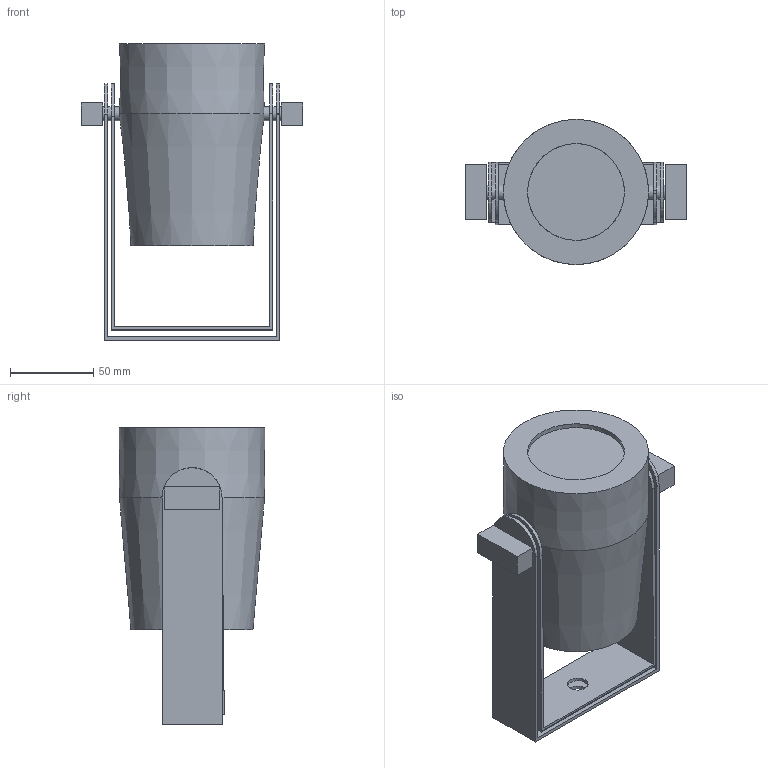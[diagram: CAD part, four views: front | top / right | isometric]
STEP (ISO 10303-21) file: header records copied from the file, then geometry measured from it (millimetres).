
FILE_DESCRIPTION(/* description */ (''),/* implementation_level */ '2;1');
FILE_NAME(/* name */ 'COLORDash Accent 5XIP_0.step',/* time_stamp */ '2026-07-14T14:15:48-04:00',/* author */ (''),/* organization */ (''),/* preprocessor_version */ 'ST-DEVELOPER v20.1',/* originating_system */ 'Autodesk Translation Framework v15.8.0.0',/* authorisation */ '');
FILE_SCHEMA (('AUTOMOTIVE_DESIGN { 1 0 10303 214 3 1 1 }'));
Length unit declared in the file: millimetre
Products named in the file (6): CHRUVET-00_ASM; Component129; BRACKET (1); BRACKET; KNOB (1); KNOB
Assembly tree (5 placements, depth 2):
  CHRUVET-00_ASM
    Component129
    BRACKET (1)
    BRACKET
    KNOB (1)
    KNOB
Bounding box: 133.06 x 87.04 x 177.8 mm (x, y, z)
Volume: 709909 mm3; surface area: 106480.7 mm2
Topology: 5 solids, 5 shells, 60 faces, 145 edges, 96 vertices
Faces by surface type: plane 40, cylinder 16, cone 4
Full cylindrical faces by diameter (mm): 8.5 x7, 12.5 x2, 58 x1
Entity records: 2044 total; most frequent: CARTESIAN_POINT 420, DIRECTION 314, ORIENTED_EDGE 288, EDGE_CURVE 144, AXIS2_PLACEMENT_3D 105, LINE 104, VECTOR 104, VERTEX_POINT 96
